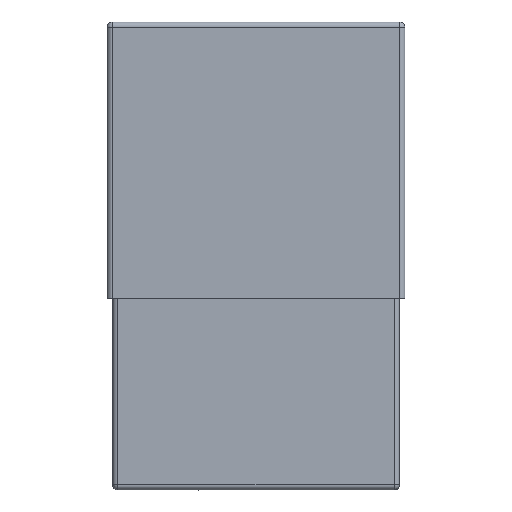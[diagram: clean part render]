
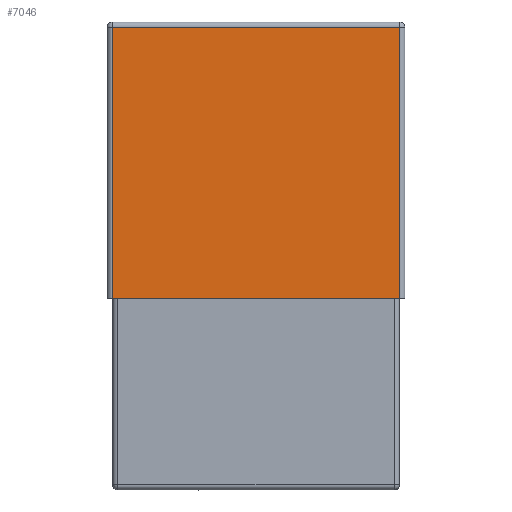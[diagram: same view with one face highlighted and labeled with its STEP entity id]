
A CAD part, front view. The second image highlights one B-rep face of the part: STEP entity #7046.
In plain terms, the highlighted planar face has unit normal (0, -1, 0).
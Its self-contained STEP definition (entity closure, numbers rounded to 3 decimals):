
#538=DIRECTION('',(1.,0.,0.));
#539=VECTOR('',#538,270.);
#540=CARTESIAN_POINT('',(-135.,-175.,-260.));
#541=LINE('',#540,#539);
#545=DIRECTION('',(0.,0.,-1.));
#546=VECTOR('',#545,255.);
#547=CARTESIAN_POINT('',(-135.,-175.,-5.));
#548=LINE('',#547,#546);
#552=DIRECTION('',(-1.,0.,0.));
#553=VECTOR('',#552,270.);
#554=CARTESIAN_POINT('',(135.,-175.,-5.));
#555=LINE('',#554,#553);
#559=DIRECTION('',(0.,0.,1.));
#560=VECTOR('',#559,255.);
#561=CARTESIAN_POINT('',(135.,-175.,-260.));
#562=LINE('',#561,#560);
#6469=CARTESIAN_POINT('',(135.,-175.,-5.));
#6470=CARTESIAN_POINT('',(-135.,-175.,-5.));
#6471=VERTEX_POINT('',#6469);
#6472=VERTEX_POINT('',#6470);
#6663=CARTESIAN_POINT('',(-135.,-175.,-260.));
#6664=CARTESIAN_POINT('',(135.,-175.,-260.));
#6665=VERTEX_POINT('',#6663);
#6666=VERTEX_POINT('',#6664);
#7032=CARTESIAN_POINT('',(-145.,-175.,0.));
#7033=DIRECTION('',(0.,-1.,0.));
#7034=DIRECTION('',(1.,0.,0.));
#7035=AXIS2_PLACEMENT_3D('',#7032,#7033,#7034);
#7036=PLANE('',#7035);
#7037=ORIENTED_EDGE('',*,*,#6996,.F.);
#7039=ORIENTED_EDGE('',*,*,#7038,.F.);
#7041=ORIENTED_EDGE('',*,*,#7040,.F.);
#7043=ORIENTED_EDGE('',*,*,#7042,.F.);
#7044=EDGE_LOOP('',(#7037,#7039,#7041,#7043));
#7045=FACE_OUTER_BOUND('',#7044,.F.);
#6996=EDGE_CURVE('',#6665,#6666,#541,.T.);
#7038=EDGE_CURVE('',#6472,#6665,#548,.T.);
#7040=EDGE_CURVE('',#6471,#6472,#555,.T.);
#7042=EDGE_CURVE('',#6666,#6471,#562,.T.);
#7046=ADVANCED_FACE('',(#7045),#7036,.T.);
